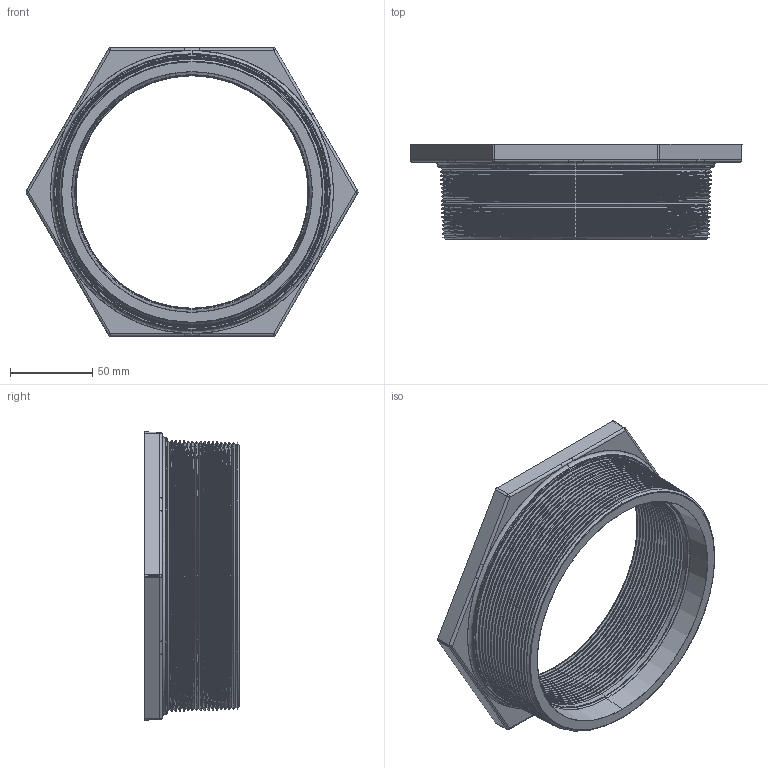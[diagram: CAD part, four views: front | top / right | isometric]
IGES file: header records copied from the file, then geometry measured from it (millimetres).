
Start section: SolidWorks IGES file using analytic representation for surfaces
Global section: file name: C:\Users\Joel Rosa\Desktop\Tubulação\12-01-OK\12-01-072.IGS; native system: SolidWorks 2011; preprocessor: SolidWorks 2011; author: Joel Rosa; date: 121203.200922; units: millimetre
Bounding box: 201.61 x 58 x 175 mm (x, y, z)
Surface area: 104693.1 mm2 (no closed solid volume)
Topology: 0 solids, 0 shells, 525 faces, 3573 edges, 3573 vertices
Faces by surface type: bspline 349, revolution 176
